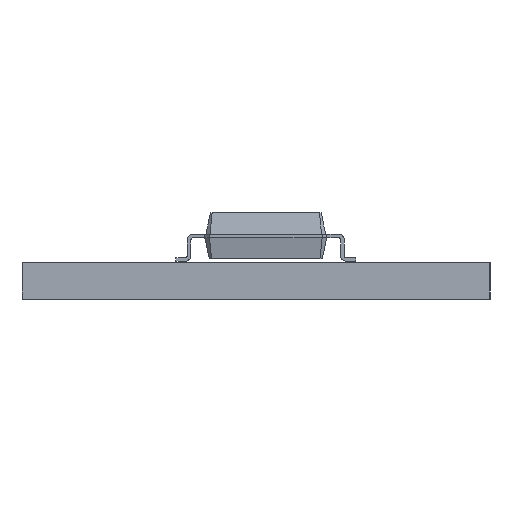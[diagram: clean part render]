
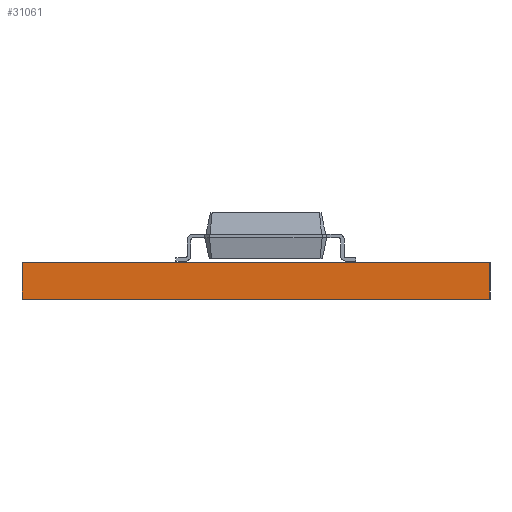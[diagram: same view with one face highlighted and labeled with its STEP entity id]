
A CAD part, left-side view. The second image highlights one B-rep face of the part: STEP entity #31061.
In plain terms, the highlighted planar face has unit normal (-1, 0, 0).
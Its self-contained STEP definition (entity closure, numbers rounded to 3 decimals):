
#28504 = PLANE('',#28505);
#28505 = AXIS2_PLACEMENT_3D('',#28506,#28507,#28508);
#28506 = CARTESIAN_POINT('',(15.172,8.89,1.6));
#28507 = DIRECTION('',(-0.,-0.,-1.));
#28508 = DIRECTION('',(-1.,0.,0.));
#28558 = PLANE('',#28559);
#28559 = AXIS2_PLACEMENT_3D('',#28560,#28561,#28562);
#28560 = CARTESIAN_POINT('',(15.172,8.89,0.));
#28561 = DIRECTION('',(-0.,-0.,-1.));
#28562 = DIRECTION('',(-1.,0.,0.));
#28591 = PLANE('',#28592);
#28592 = AXIS2_PLACEMENT_3D('',#28593,#28594,#28595);
#28593 = CARTESIAN_POINT('',(-1.27,19.05,0.));
#28594 = DIRECTION('',(0.,1.,0.));
#28595 = DIRECTION('',(1.,0.,0.));
#29003 = VERTEX_POINT('',#29004);
#29004 = CARTESIAN_POINT('',(-1.27,-1.27,0.));
#29018 = PLANE('',#29019);
#29019 = AXIS2_PLACEMENT_3D('',#29020,#29021,#29022);
#29020 = CARTESIAN_POINT('',(31.25,-1.27,0.));
#29021 = DIRECTION('',(0.,-1.,0.));
#29022 = DIRECTION('',(-1.,0.,0.));
#29030 = EDGE_CURVE('',#29003,#29031,#29033,.T.);
#29031 = VERTEX_POINT('',#29032);
#29032 = CARTESIAN_POINT('',(-1.27,19.05,0.));
#29033 = SURFACE_CURVE('',#29034,(#29038,#29045),.PCURVE_S1.);
#29034 = LINE('',#29035,#29036);
#29035 = CARTESIAN_POINT('',(-1.27,-1.27,0.));
#29036 = VECTOR('',#29037,1.);
#29037 = DIRECTION('',(0.,1.,0.));
#29038 = PCURVE('',#28558,#29039);
#29039 = DEFINITIONAL_REPRESENTATION('',(#29040),#29044);
#29040 = LINE('',#29041,#29042);
#29041 = CARTESIAN_POINT('',(16.442,-10.16));
#29042 = VECTOR('',#29043,1.);
#29043 = DIRECTION('',(0.,1.));
#29044 = ( GEOMETRIC_REPRESENTATION_CONTEXT(2) 
PARAMETRIC_REPRESENTATION_CONTEXT() REPRESENTATION_CONTEXT('2D SPACE',''
  ) );
#29045 = PCURVE('',#29046,#29051);
#29046 = PLANE('',#29047);
#29047 = AXIS2_PLACEMENT_3D('',#29048,#29049,#29050);
#29048 = CARTESIAN_POINT('',(-1.27,-1.27,0.));
#29049 = DIRECTION('',(-1.,0.,0.));
#29050 = DIRECTION('',(0.,1.,0.));
#29051 = DEFINITIONAL_REPRESENTATION('',(#29052),#29056);
#29052 = LINE('',#29053,#29054);
#29053 = CARTESIAN_POINT('',(0.,0.));
#29054 = VECTOR('',#29055,1.);
#29055 = DIRECTION('',(1.,0.));
#29056 = ( GEOMETRIC_REPRESENTATION_CONTEXT(2) 
PARAMETRIC_REPRESENTATION_CONTEXT() REPRESENTATION_CONTEXT('2D SPACE',''
  ) );
#30191 = VERTEX_POINT('',#30192);
#30192 = CARTESIAN_POINT('',(-1.27,-1.27,1.6));
#30213 = EDGE_CURVE('',#30191,#30214,#30216,.T.);
#30214 = VERTEX_POINT('',#30215);
#30215 = CARTESIAN_POINT('',(-1.27,19.05,1.6));
#30216 = SURFACE_CURVE('',#30217,(#30221,#30228),.PCURVE_S1.);
#30217 = LINE('',#30218,#30219);
#30218 = CARTESIAN_POINT('',(-1.27,-1.27,1.6));
#30219 = VECTOR('',#30220,1.);
#30220 = DIRECTION('',(0.,1.,0.));
#30221 = PCURVE('',#28504,#30222);
#30222 = DEFINITIONAL_REPRESENTATION('',(#30223),#30227);
#30223 = LINE('',#30224,#30225);
#30224 = CARTESIAN_POINT('',(16.442,-10.16));
#30225 = VECTOR('',#30226,1.);
#30226 = DIRECTION('',(0.,1.));
#30227 = ( GEOMETRIC_REPRESENTATION_CONTEXT(2) 
PARAMETRIC_REPRESENTATION_CONTEXT() REPRESENTATION_CONTEXT('2D SPACE',''
  ) );
#30228 = PCURVE('',#29046,#30229);
#30229 = DEFINITIONAL_REPRESENTATION('',(#30230),#30234);
#30230 = LINE('',#30231,#30232);
#30231 = CARTESIAN_POINT('',(0.,-1.6));
#30232 = VECTOR('',#30233,1.);
#30233 = DIRECTION('',(1.,0.));
#30234 = ( GEOMETRIC_REPRESENTATION_CONTEXT(2) 
PARAMETRIC_REPRESENTATION_CONTEXT() REPRESENTATION_CONTEXT('2D SPACE',''
  ) );
#31011 = EDGE_CURVE('',#29031,#30214,#31012,.T.);
#31012 = SURFACE_CURVE('',#31013,(#31017,#31024),.PCURVE_S1.);
#31013 = LINE('',#31014,#31015);
#31014 = CARTESIAN_POINT('',(-1.27,19.05,0.));
#31015 = VECTOR('',#31016,1.);
#31016 = DIRECTION('',(0.,0.,1.));
#31017 = PCURVE('',#28591,#31018);
#31018 = DEFINITIONAL_REPRESENTATION('',(#31019),#31023);
#31019 = LINE('',#31020,#31021);
#31020 = CARTESIAN_POINT('',(0.,0.));
#31021 = VECTOR('',#31022,1.);
#31022 = DIRECTION('',(0.,-1.));
#31023 = ( GEOMETRIC_REPRESENTATION_CONTEXT(2) 
PARAMETRIC_REPRESENTATION_CONTEXT() REPRESENTATION_CONTEXT('2D SPACE',''
  ) );
#31024 = PCURVE('',#29046,#31025);
#31025 = DEFINITIONAL_REPRESENTATION('',(#31026),#31030);
#31026 = LINE('',#31027,#31028);
#31027 = CARTESIAN_POINT('',(20.32,0.));
#31028 = VECTOR('',#31029,1.);
#31029 = DIRECTION('',(0.,-1.));
#31030 = ( GEOMETRIC_REPRESENTATION_CONTEXT(2) 
PARAMETRIC_REPRESENTATION_CONTEXT() REPRESENTATION_CONTEXT('2D SPACE',''
  ) );
#31061 = ADVANCED_FACE('',(#31062),#29046,.T.);
#31062 = FACE_BOUND('',#31063,.T.);
#31063 = EDGE_LOOP('',(#31064,#31085,#31086,#31087));
#31064 = ORIENTED_EDGE('',*,*,#31065,.T.);
#31065 = EDGE_CURVE('',#29003,#30191,#31066,.T.);
#31066 = SURFACE_CURVE('',#31067,(#31071,#31078),.PCURVE_S1.);
#31067 = LINE('',#31068,#31069);
#31068 = CARTESIAN_POINT('',(-1.27,-1.27,0.));
#31069 = VECTOR('',#31070,1.);
#31070 = DIRECTION('',(0.,0.,1.));
#31071 = PCURVE('',#29046,#31072);
#31072 = DEFINITIONAL_REPRESENTATION('',(#31073),#31077);
#31073 = LINE('',#31074,#31075);
#31074 = CARTESIAN_POINT('',(0.,0.));
#31075 = VECTOR('',#31076,1.);
#31076 = DIRECTION('',(0.,-1.));
#31077 = ( GEOMETRIC_REPRESENTATION_CONTEXT(2) 
PARAMETRIC_REPRESENTATION_CONTEXT() REPRESENTATION_CONTEXT('2D SPACE',''
  ) );
#31078 = PCURVE('',#29018,#31079);
#31079 = DEFINITIONAL_REPRESENTATION('',(#31080),#31084);
#31080 = LINE('',#31081,#31082);
#31081 = CARTESIAN_POINT('',(32.52,0.));
#31082 = VECTOR('',#31083,1.);
#31083 = DIRECTION('',(0.,-1.));
#31084 = ( GEOMETRIC_REPRESENTATION_CONTEXT(2) 
PARAMETRIC_REPRESENTATION_CONTEXT() REPRESENTATION_CONTEXT('2D SPACE',''
  ) );
#31085 = ORIENTED_EDGE('',*,*,#30213,.T.);
#31086 = ORIENTED_EDGE('',*,*,#31011,.F.);
#31087 = ORIENTED_EDGE('',*,*,#29030,.F.);
